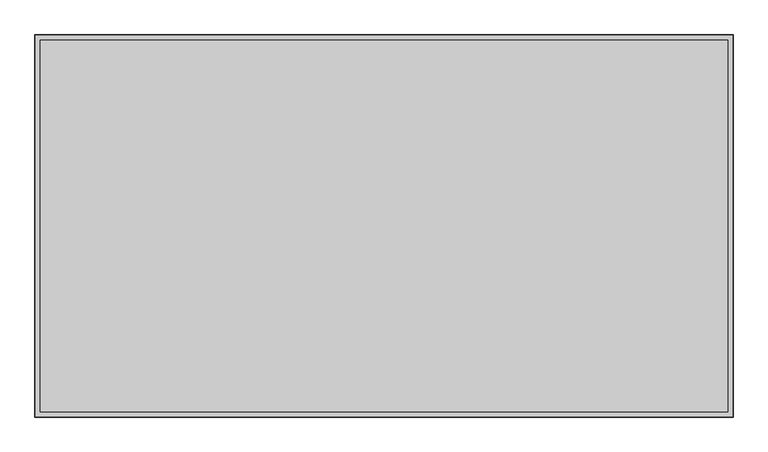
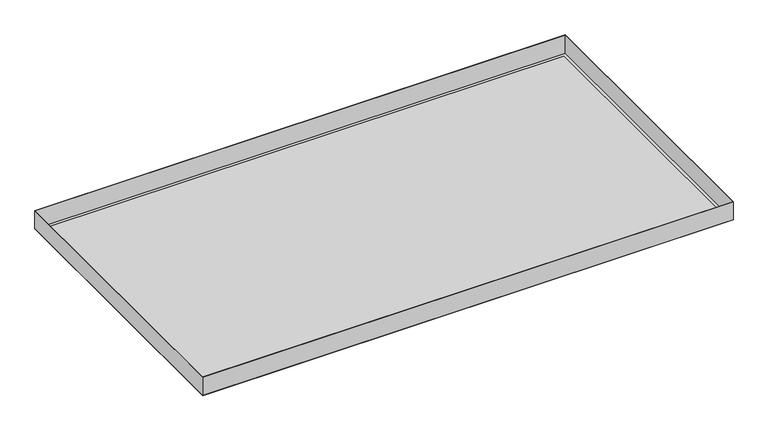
"""IFC4 building model written with IfcOpenShell, lengths in millimetres: proxy geometry, durlum_S5-100_panel : durlum_S5-100_panel."""

from ifc_helpers import new_model, si_unit, frame, origin, origin_with_axes, place, context, project, spatial, polyline, outline, extrude, source, transform, mapped, element, save


def generic_models_67140d94(model_context):
    return source(origin(), model_context, "Body", "SweptSolid", [
        extrude(outline(polyline([(547.0, 299.75), (547.0, -299.75), (-547.0, -299.75), (-547.0, 299.75), (547.0, 299.75)]), holes=[polyline([(546.4, 299.15), (-546.4, 299.15), (-546.4, -299.15), (546.4, -299.15), (546.4, 299.15)])]), frame((0.0, 0.0, 0.6), z_axis=(0.0, 0.0, 1.0), x_axis=(1.0, 0.0, 0.0)), (0.0, 0.0, 1.0), 39.4),
        extrude(outline(polyline([(539.0, 291.75), (539.0, -291.75), (-539.0, -291.75), (-539.0, 291.75), (539.0, 291.75)])), frame((0.0, 0.0, 0.6), z_axis=(0.0, 0.0, 1.0), x_axis=(1.0, 0.0, 0.0)), (0.0, 0.0, 1.0), 0.6),
        extrude(outline(polyline([(547.0, 299.75), (547.0, -299.75), (-547.0, -299.75), (-547.0, 299.75), (547.0, 299.75)]), holes=[polyline([(539.0, 291.75), (-539.0, 291.75), (-539.0, -291.75), (539.0, -291.75), (539.0, 291.75)])]), origin_with_axes(), (0.0, 0.0, 1.0), 0.6),
        extrude(outline(polyline([(539.0, 291.75), (539.0, -291.75), (-539.0, -291.75), (-539.0, 291.75), (539.0, 291.75)])), origin_with_axes(), (0.0, 0.0, 1.0), 0.6),
    ])


if __name__ == "__main__":
    model = new_model("IFC4")
    model_context = context("Model", 3, world=origin())
    ifc_project = project(units=[si_unit("LENGTHUNIT", "METRE", prefix="MILLI")], contexts=[model_context])
    site = spatial("IfcSite", under=ifc_project)
    building = spatial("IfcBuilding", under=site)
    placement = place(None, origin())
    generic_models_shape = generic_models_67140d94(model_context)
    element("IfcBuildingElementProxy", 1, Name="durlum_S5-100_panel : durlum_S5-100_panel", ObjectType="durlum_S5-100_panel : durlum_S5-100_panel", at=placement, inside=building, context=model_context, shape_type="MappedRepresentation", body=[
        mapped(generic_models_shape, transform((0.0, 0.0, 0.0), x_axis=(1.0, 0.0, 0.0), y_axis=(0.0, 1.0, 0.0), z_axis=(0.0, 0.0, 1.0))),
    ])
    save(model, "model.ifc")
